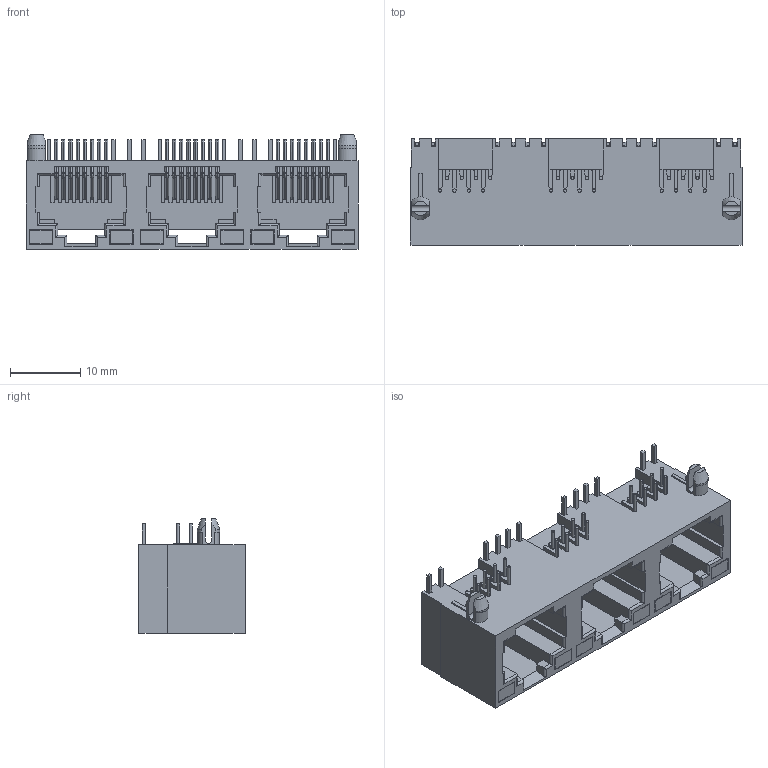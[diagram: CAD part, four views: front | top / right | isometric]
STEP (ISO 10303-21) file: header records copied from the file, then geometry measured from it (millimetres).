
FILE_DESCRIPTION((''),'2;1');
FILE_NAME('56LED-1X3-D00_49','2020-01-06T11:49:40',('Administrator'),(''),'CREO PARAMETRIC BY PTC INC, 2018400','CREO PARAMETRIC BY PTC INC, 2018400','');
FILE_SCHEMA(('CONFIG_CONTROL_DESIGN'));
Length unit declared in the file: millimetre
Products named in the file (1): 56LED-1X3-D00_49
Bounding box: 47.2 x 15.1 x 16.3 mm (x, y, z)
Volume: 4360.9 mm3; surface area: 7987.4 mm2
Topology: 1 solids, 1 shells, 1242 faces, 3467 edges, 2211 vertices
Faces by surface type: plane 769, cylinder 325, torus 84, bspline 60, cone 4
Entity records: 43935 total; most frequent: CARTESIAN_POINT 12018, ORIENTED_EDGE 6934, DIRECTION 6334, EDGE_CURVE 3467, VECTOR 2494, LINE 2494, VERTEX_POINT 2211, AXIS2_PLACEMENT_3D 1920
